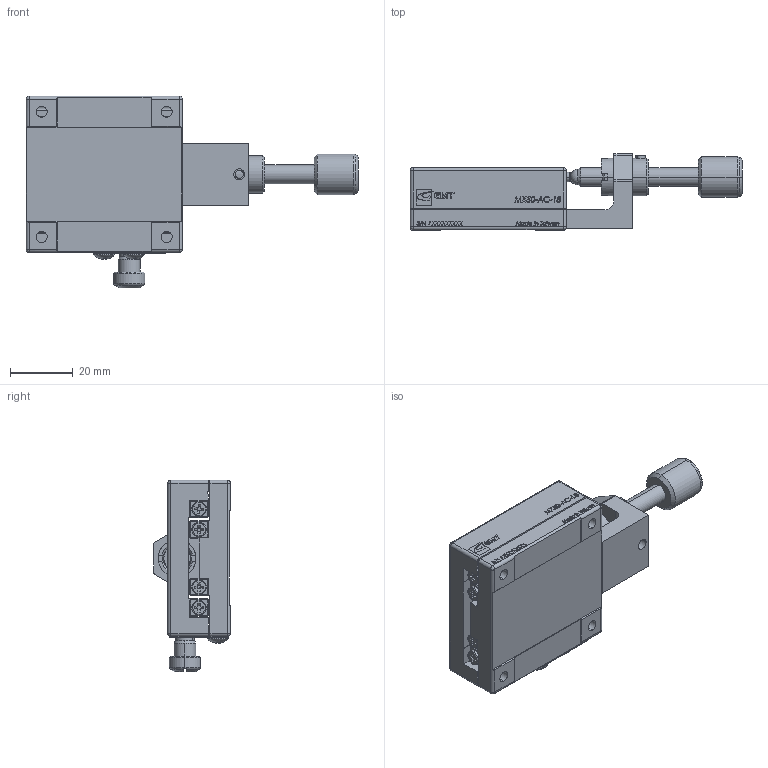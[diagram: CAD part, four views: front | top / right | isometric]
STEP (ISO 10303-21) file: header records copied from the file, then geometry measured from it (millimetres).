
FILE_DESCRIPTION (( 'STEP AP203' ), '1' );
FILE_NAME ('MX50-AC-18(«¬¿ý).STEP', '2013-07-06T08:26:42', ( '123' ), ( '' ), 'SwSTEP 2.0', 'SolidWorks 2013', '' );
FILE_SCHEMA (( 'CONFIG_CONTROL_DESIGN' ));
Length unit declared in the file: millimetre
Products named in the file (3): Group1^MX50-AC-18(型錄); MX50-AC-18(型錄); Group2^MX50-AC-18(型錄)
Assembly tree (2 placements, depth 2):
  MX50-AC-18(型錄)
    Group1^MX50-AC-18(型錄)
    Group2^MX50-AC-18(型錄)
Bounding box: 106.17 x 24.5 x 61.3 mm (x, y, z)
Volume: 52751.8 mm3; surface area: 26263.6 mm2
Topology: 18 solids, 18 shells, 2378 faces, 6201 edges, 4017 vertices
Faces by surface type: plane 1521, cylinder 392, bspline 285, cone 116, torus 50, sphere 14
Entity records: 89200 total; most frequent: CARTESIAN_POINT 31806, ORIENTED_EDGE 12346, DIRECTION 10818, EDGE_CURVE 6173, LINE 4322, VECTOR 4322, VERTEX_POINT 4017, AXIS2_PLACEMENT_3D 3248
